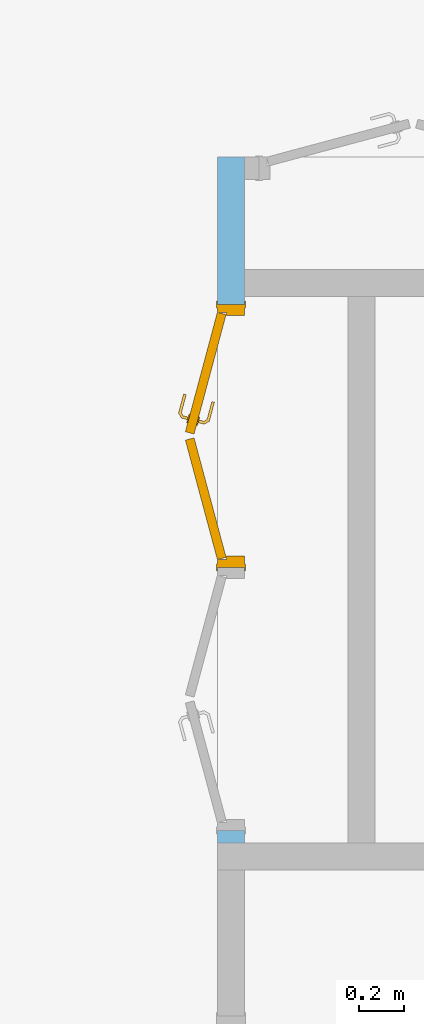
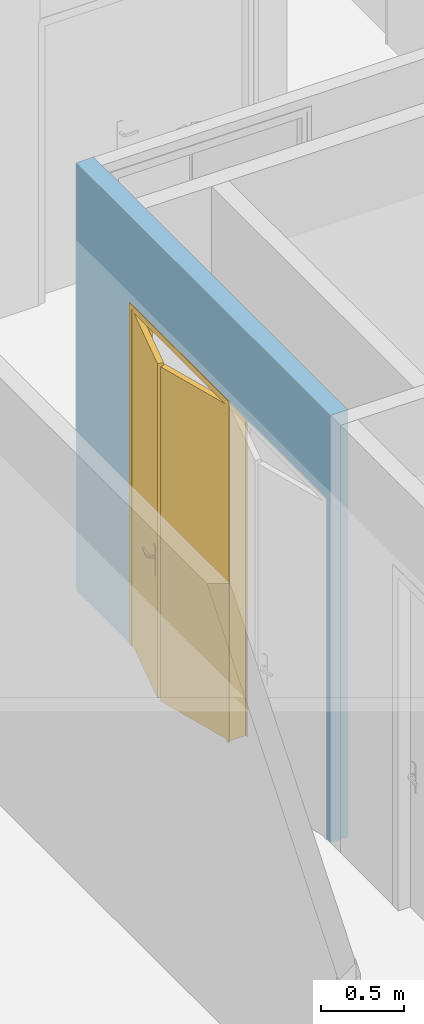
# One storey, part 192 of 240: 1 door, 2 openings, plus 1 element that does not belong to this part.
"""IFC2X3 building model written with IfcOpenShell, lengths in centimetres."""

from ifc_helpers import new_model, entity, si_unit, converted_unit, derived_unit, direction, frame, frame_2d, origin, place, context, subcontext, project, spatial, rectangle, extrude, faceted_brep, source, transform, mapped, material, material_list, layer, layer_set, layer_usage, type_object, type_shapes, element, fill, save


model = new_model("IFC2X3")

# Units and contexts
model_context = context("Model", 3, precision=0.001, world=origin(), true_north=direction((6.12303176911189e-17, 1.0)))
body_context = subcontext(model_context, "Body", "Model", "MODEL_VIEW")
ifc_project = project(units=[si_unit("LENGTHUNIT", "METRE", prefix="CENTI"), si_unit("AREAUNIT", "SQUARE_METRE"), si_unit("VOLUMEUNIT", "CUBIC_METRE"), converted_unit("PLANEANGLEUNIT", "DEGREE", entity("IfcRatioMeasure", 0.0174532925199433), si_unit("PLANEANGLEUNIT", "RADIAN"), dimensions=[0, 0, 0, 0, 0, 0, 0]), si_unit("MASSUNIT", "GRAM", prefix="KILO"), derived_unit("MASSDENSITYUNIT", [(si_unit("MASSUNIT", "GRAM", prefix="KILO"), 1), (si_unit("LENGTHUNIT", "METRE"), -3)]), si_unit("TIMEUNIT", "SECOND"), si_unit("FREQUENCYUNIT", "HERTZ"), si_unit("THERMODYNAMICTEMPERATUREUNIT", "DEGREE_CELSIUS"), derived_unit("THERMALTRANSMITTANCEUNIT", [(si_unit("MASSUNIT", "GRAM", prefix="KILO"), 1), (si_unit("THERMODYNAMICTEMPERATUREUNIT", "KELVIN"), -1), (si_unit("TIMEUNIT", "SECOND"), -3)]), derived_unit("VOLUMETRICFLOWRATEUNIT", [(si_unit("LENGTHUNIT", "METRE"), 3), (si_unit("TIMEUNIT", "SECOND"), -1)]), si_unit("ELECTRICCURRENTUNIT", "AMPERE"), si_unit("ELECTRICVOLTAGEUNIT", "VOLT"), si_unit("POWERUNIT", "WATT"), si_unit("FORCEUNIT", "NEWTON", prefix="KILO"), si_unit("ILLUMINANCEUNIT", "LUX"), si_unit("LUMINOUSFLUXUNIT", "LUMEN"), si_unit("LUMINOUSINTENSITYUNIT", "CANDELA"), derived_unit("USERDEFINED", [(si_unit("MASSUNIT", "GRAM", prefix="KILO"), -1), (si_unit("LENGTHUNIT", "METRE"), -2), (si_unit("TIMEUNIT", "SECOND"), 3), (si_unit("LUMINOUSFLUXUNIT", "LUMEN"), 1)]), derived_unit("LINEARVELOCITYUNIT", [(si_unit("LENGTHUNIT", "METRE"), 1), (si_unit("TIMEUNIT", "SECOND"), -1)]), si_unit("PRESSUREUNIT", "PASCAL"), derived_unit("USERDEFINED", [(si_unit("LENGTHUNIT", "METRE"), -2), (si_unit("MASSUNIT", "GRAM", prefix="KILO"), 1), (si_unit("TIMEUNIT", "SECOND"), -2)])], contexts=[model_context])

# Site, building, storey
site_placement = place(None, frame((-2781.94577612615, 7442.24238424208, 0.0)))
site = spatial("IfcSite", under=ifc_project, at=site_placement, Name="Default", CompositionType="ELEMENT")
building_placement = place(site_placement, origin())
building = spatial("IfcBuilding", under=site, at=building_placement, CompositionType="ELEMENT")
storey_placement = place(building_placement, origin())
storey = spatial("IfcBuildingStorey", under=building, at=storey_placement, Name="N00 - COO", CompositionType="ELEMENT", Elevation=0.0)

# Wall, openings, door
ifc_material_1 = material(Name="01 - Enduit/Plâtre")
ifc_layer_1 = layer(ifc_material_1, 1.0)
ifc_material_2 = material(Name="Maçonnerie - Béton")
ifc_layer_2 = layer(ifc_material_2, 10.0)
ifc_layer_3 = layer(ifc_material_1, 1.0)
ifc_layer_set = layer_set([ifc_layer_1, ifc_layer_2, ifc_layer_3], Name="Mur de base:06 - cloisons - agglos10 + faïence 12cm")
ifc_layer_usage = layer_usage(ifc_layer_set, "AXIS2", "NEGATIVE", 6.0)
wall_type = type_object("IfcWallType", Name="Mur de base:06 - cloisons - agglos10 + faïence 12cm", PredefinedType="STANDARD", material=ifc_layer_set)
wall_placement = place(building_placement, frame((-10470.6130476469, -2673.07903364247, 0.0), z_axis=(0.0, 0.0, 1.0), x_axis=(0.0, -1.0, 0.0)))
wall = element("IfcWallStandardCase", 1, at=wall_placement, inside=storey, type_object=wall_type, material=ifc_layer_usage, Name="Mur de base:06 - cloisons - agglos10 + faïence 12cm", ObjectType="Mur de base:06 - cloisons - agglos10 + faïence 12cm", context=body_context, shape_type="SweptSolid", body=[
    extrude(rectangle(XDim=305.000000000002, YDim=12.0000000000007, at=frame_2d((152.500000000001, 0.0), x_axis=(-1.0, 0.0))), origin(), (0.0, 0.0, 1.0), 313.0),
])
opening_1_placement = place(wall_placement, frame((182.500000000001, 6.0, 0.0)))
opening_1 = element("IfcOpeningElement", 2, at=opening_1_placement, cuts=wall, Name="Int. Double:PP Placard (1.10m x 2.50m):1", ObjectType="Opening", context=body_context, shape_type="SweptSolid", body=[
    extrude(rectangle(XDim=248.500000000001, YDim=117.0, at=frame_2d((124.250000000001, 58.5000000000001), x_axis=(1.0, 0.0))), frame((0.0, 0.0, 0.0), z_axis=(0.0, -1.0, 0.0), x_axis=(0.0, 0.0, 1.0)), (0.0, 0.0, 1.0), 12.0),
])
opening_2_placement = place(wall_placement, frame((299.500000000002, 6.0, 0.0)))
element("IfcOpeningElement", 3, at=opening_2_placement, cuts=wall, Name="Int. Double:PP Placard (1.10m x 2.50m):1", ObjectType="Opening", context=body_context, shape_type="SweptSolid", body=[
    extrude(rectangle(XDim=248.500000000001, YDim=117.0, at=frame_2d((124.250000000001, 58.5000000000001), x_axis=(1.0, 0.0))), frame((0.0, 0.0, 0.0), z_axis=(0.0, -1.0, 0.0), x_axis=(0.0, 0.0, 1.0)), (0.0, 0.0, 1.0), 12.0),
])
ifc_material_3 = material(Name="Bois - Panneau de porte")
ifc_material_4 = material(Name="Finition Peinture - Blanc satiné")
ifc_material_5 = material(Name="Bois - Cadre de porte")
ifc_material_list_1 = material_list([ifc_material_3, ifc_material_4, ifc_material_5])
ifc_material_list_2 = material_list([ifc_material_3, ifc_material_4, ifc_material_5])
door_style = type_object("IfcDoorStyle", Name="PP Placard (1.10m x 2.50m)", ConstructionType="NOTDEFINED", OperationType="DOUBLE_DOOR_SINGLE_SWING", ParameterTakesPrecedence=False, Sizeable=False, material=ifc_material_list_2)
shared_shape = source(origin(), body_context, "Body", "Brep", [
    faceted_brep([(66.3388033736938, -10.3713441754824, 245.0), (119.464723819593, 3.86370330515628, 245.0), (119.464723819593, 3.86370330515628, 0.0), (66.3388033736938, -10.3713441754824, 0.0), (67.3740795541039, -14.2350474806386, 245.0), (67.3740795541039, -14.2350474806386, 0.0), (120.500000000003, 0.0, 0.0), (120.500000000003, 0.0, 245.0)], [[[0, 1, 2, 3]], [[4, 5, 6, 7]], [[1, 0, 4, 7]], [[2, 1, 7, 6]], [[3, 2, 6, 5]], [[0, 3, 5, 4]]]),
    faceted_brep([(59.632807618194, -13.6827342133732, 87.0), (59.632807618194, -13.6827342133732, 108.0), (58.7009559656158, -13.4330453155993, 108.399601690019), (57.7009559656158, -13.1650961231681, 108.535898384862), (56.7009559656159, -12.897146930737, 108.399601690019), (55.7691043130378, -12.6474580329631, 108.0), (55.7691043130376, -12.6474580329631, 87.0), (56.7009559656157, -12.897146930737, 86.6003983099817), (57.7009559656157, -13.1650961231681, 86.464101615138), (58.7009559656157, -13.4330453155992, 86.6003983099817), (59.7622171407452, -13.1997713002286, 108.0), (59.7622171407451, -13.1997713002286, 87.0), (58.830365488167, -12.9500824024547, 86.6003983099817), (57.830365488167, -12.6821332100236, 86.464101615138), (56.830365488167, -12.4141840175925, 86.6003983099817), (55.8985138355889, -12.1644951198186, 87.0), (55.898513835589, -12.1644951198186, 108.0), (56.8303654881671, -12.4141840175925, 108.399601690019), (57.8303654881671, -12.6821332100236, 108.535898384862), (58.8303654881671, -12.9500824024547, 108.399601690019)], [[[0, 1, 2, 3, 4, 5, 6, 7, 8, 9]], [[10, 11, 12, 13, 14, 15, 16, 17, 18, 19]], [[9, 12, 11, 0]], [[8, 13, 12, 9]], [[7, 14, 13, 8]], [[7, 6, 15, 14]], [[15, 6, 5, 16]], [[4, 17, 16, 5]], [[3, 18, 17, 4]], [[2, 19, 18, 3]], [[2, 1, 10, 19]], [[11, 10, 1, 0]]]),
    faceted_brep([(60.7974933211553, -9.33606799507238, 87.0), (60.7974933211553, -9.33606799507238, 108.0), (59.8656416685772, -9.08637909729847, 108.399601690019), (58.8656416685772, -8.81842990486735, 108.535898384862), (57.8656416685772, -8.55048071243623, 108.399601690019), (56.9337900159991, -8.30079181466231, 108.0), (56.933790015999, -8.30079181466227, 87.0), (57.8656416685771, -8.55048071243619, 86.6003983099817), (58.8656416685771, -8.81842990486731, 86.464101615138), (59.865641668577, -9.08637909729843, 86.6003983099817), (58.9950511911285, -8.33546699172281, 108.535898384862), (59.9950511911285, -8.60341618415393, 108.399601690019), (60.9269028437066, -8.85310508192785, 108.0), (60.9269028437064, -8.85310508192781, 87.0), (59.9950511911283, -8.6034161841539, 86.6003983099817), (58.9950511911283, -8.33546699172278, 86.464101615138), (57.9950511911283, -8.06751779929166, 86.6003983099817), (57.0631995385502, -7.81782890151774, 87.0), (57.0631995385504, -7.81782890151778, 108.0), (57.9950511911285, -8.0675177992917, 108.399601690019)], [[[0, 1, 2, 3, 4, 5, 6, 7, 8, 9]], [[10, 11, 12, 13, 14, 15, 16, 17, 18, 19]], [[4, 19, 18, 5]], [[3, 10, 19, 4]], [[2, 11, 10, 3]], [[2, 1, 12, 11]], [[13, 12, 1, 0]], [[9, 14, 13, 0]], [[8, 15, 14, 9]], [[7, 16, 15, 8]], [[7, 6, 17, 16]], [[17, 6, 5, 18]]]),
    faceted_brep([(57.5053271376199, -13.1126775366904, 100.778044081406), (57.8965847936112, -13.2175147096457, 100.778044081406), (58.2805114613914, -13.3203875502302, 100.699999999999), (58.2805114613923, -13.3203875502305, 99.2999999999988), (57.896584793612, -13.217514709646, 99.221955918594), (57.5053271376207, -13.1126775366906, 99.2219559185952), (57.1214004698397, -13.0098046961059, 99.3000000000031), (57.1214004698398, -13.0098046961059, 100.7), (57.2235368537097, -15.7293638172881, 100.778044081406), (57.56485219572, -15.9912642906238, 100.7), (56.8757041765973, -15.4624624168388, 100.778044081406), (55.2007309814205, -16.4295086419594, 100.778044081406), (55.2579580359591, -16.8641912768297, 100.778044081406), (56.5343888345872, -15.2005619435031, 100.7), (56.534388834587, -15.200561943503, 99.3000000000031), (56.875704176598, -15.4624624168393, 99.2219559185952), (57.2235368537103, -15.7293638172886, 99.221955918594), (55.2579580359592, -16.8641912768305, 99.221955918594), (55.2007309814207, -16.4295086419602, 99.2219559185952), (57.5648521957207, -15.9912642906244, 99.2999999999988), (55.3141128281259, -17.2907292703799, 100.7), (55.1445761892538, -16.0029706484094, 100.7), (55.1445761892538, -16.0029706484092, 99.3000000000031), (55.314112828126, -17.2907292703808, 99.2999999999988), (46.8486006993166, -15.0224021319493, 100.7), (46.951473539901, -14.6384754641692, 100.778044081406), (47.0563107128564, -14.2472178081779, 100.778044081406), (47.1591835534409, -13.8632911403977, 100.699999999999), (47.1591835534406, -13.8632911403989, 99.3000000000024), (47.0563107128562, -14.2472178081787, 99.2219559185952), (46.9514735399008, -14.63847546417, 99.221955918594), (46.8486006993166, -15.0224021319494, 99.2999999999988), (51.0761022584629, -15.5339920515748, 100.78786867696), (51.4571239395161, -16.257252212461, 100.7), (51.1518798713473, -14.9331308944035, 100.7), (51.1518798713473, -14.9331308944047, 99.3000000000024), (51.0761022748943, -15.5339920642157, 99.2121313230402), (51.457124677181, -16.2572524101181, 99.2999999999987)], [[[0, 1, 2, 3, 4, 5, 6, 7]], [[2, 1, 8, 9]], [[1, 0, 10, 11, 12, 8]], [[0, 7, 13, 10]], [[14, 13, 7, 6]], [[5, 15, 14, 6]], [[5, 4, 16, 17, 18, 15]], [[3, 19, 16, 4]], [[9, 19, 3, 2]], [[9, 8, 12, 20]], [[10, 13, 21, 11]], [[22, 21, 13, 14]], [[14, 15, 18, 22]], [[16, 19, 23, 17]], [[20, 23, 19, 9]], [[24, 25, 26, 27, 28, 29, 30, 31]], [[32, 25, 33]], [[33, 25, 24]], [[33, 20, 12]], [[11, 34, 32]], [[34, 11, 21]], [[27, 26, 34]], [[32, 26, 25]], [[32, 34, 26]], [[32, 33, 12]], [[11, 32, 12]], [[21, 22, 35, 28, 27, 34]], [[36, 29, 35]], [[30, 36, 37]], [[18, 35, 22]], [[29, 28, 35]], [[30, 37, 31]], [[37, 17, 23]], [[36, 17, 37]], [[36, 18, 17]], [[36, 35, 18]], [[29, 36, 30]], [[23, 20, 33, 24, 31, 37]]]),
    faceted_brep([(58.799422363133, -8.28304840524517, 99.2219559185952), (59.1906800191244, -8.38788557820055, 99.221955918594), (59.5746066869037, -8.49075841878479, 99.2999999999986), (59.5746066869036, -8.49075841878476, 100.7), (59.1906800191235, -8.38788557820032, 100.778044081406), (58.7994223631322, -8.28304840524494, 100.778044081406), (58.415495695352, -8.18017556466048, 100.7), (58.4154956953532, -8.18017556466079, 99.3000000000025), (58.9974556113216, -6.00827159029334, 100.7), (58.9974556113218, -6.00827159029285, 99.3000000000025), (59.4239936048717, -5.95211679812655, 100.778044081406), (59.858676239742, -5.89488974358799, 100.778044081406), (58.7141254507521, -3.9124696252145, 100.778044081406), (58.4472240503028, -4.26030230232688, 100.778044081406), (60.285214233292, -5.83873495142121, 100.7), (60.2852142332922, -5.8387349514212, 99.2999999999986), (59.858676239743, -5.89488974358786, 99.221955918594), (59.4239936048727, -5.95211679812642, 99.2219559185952), (58.4472240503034, -4.26030230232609, 99.2219559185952), (58.7141254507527, -3.91246962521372, 99.221955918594), (58.1853235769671, -4.60161764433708, 100.7), (58.1853235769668, -4.60161764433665, 99.3000000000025), (58.9760259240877, -3.57115428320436, 100.7), (58.9760259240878, -3.57115428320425, 99.2999999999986), (50.3134642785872, -2.08086794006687, 100.778044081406), (50.4183014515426, -1.68961028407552, 100.778044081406), (50.521174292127, -1.30568361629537, 100.7), (50.5211742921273, -1.30568361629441, 99.2999999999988), (50.4183014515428, -1.68961028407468, 99.221955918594), (50.3134642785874, -2.08086794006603, 99.2219559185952), (50.2105914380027, -2.46479460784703, 99.3000000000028), (50.2105914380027, -2.46479460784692, 100.7), (54.197957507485, -3.53320612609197, 100.7), (54.1979586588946, -3.53320643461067, 99.3000000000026), (54.4327627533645, -2.97495629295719, 100.78786867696), (55.1190370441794, -2.53767722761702, 100.7), (55.119037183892, -2.53767726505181, 99.2999999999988), (54.4327627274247, -2.97495629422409, 99.2121313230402)], [[[0, 1, 2, 3, 4, 5, 6, 7]], [[8, 9, 7, 6]], [[5, 10, 8, 6]], [[5, 4, 11, 12, 13, 10]], [[3, 14, 11, 4]], [[14, 3, 2, 15]], [[2, 1, 16, 15]], [[1, 0, 17, 18, 19, 16]], [[0, 7, 9, 17]], [[20, 21, 9, 8]], [[8, 10, 13, 20]], [[14, 22, 12, 11]], [[23, 22, 14, 15]], [[15, 16, 19, 23]], [[17, 9, 21, 18]], [[24, 25, 26, 27, 28, 29, 30, 31]], [[21, 20, 32, 31, 30, 33]], [[34, 24, 32]], [[25, 34, 35]], [[13, 32, 20]], [[24, 31, 32]], [[25, 35, 26]], [[35, 12, 22]], [[34, 12, 35]], [[34, 13, 12]], [[34, 32, 13]], [[24, 34, 25]], [[22, 23, 36, 27, 26, 35]], [[37, 28, 36]], [[36, 28, 27]], [[36, 23, 19]], [[18, 33, 37]], [[33, 18, 21]], [[30, 29, 33]], [[37, 29, 28]], [[37, 33, 29]], [[37, 36, 19]], [[18, 37, 19]]]),
    faceted_brep([(64.6611966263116, -10.3713441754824, 245.0), (64.6611966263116, -10.3713441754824, 0.0), (11.5352761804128, 3.86370330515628, 0.0), (11.5352761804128, 3.86370330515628, 245.0), (63.6259204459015, -14.2350474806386, 245.0), (10.5000000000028, 0.0, 245.0), (10.5000000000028, 0.0, 0.0), (63.6259204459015, -14.2350474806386, 0.0)], [[[0, 1, 2, 3]], [[4, 5, 6, 7]], [[3, 5, 4, 0]], [[2, 6, 5, 3]], [[1, 7, 6, 2]], [[0, 4, 7, 1]]]),
    faceted_brep([(124.0, 0.0, 0.0), (120.500000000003, 0.0, 0.0), (120.500000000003, 4.0, 0.0), (119.0, 4.0, 0.0), (119.0, 12.0, 0.0), (124.0, 12.0, 0.0), (124.0, 12.0, 248.500000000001), (124.0, 0.0, 248.500000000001), (119.0, 12.0, 243.5), (12.0, 12.0, 243.5), (12.0, 12.0, 0.0), (7.0, 12.0, 0.0), (7.0, 12.0, 248.500000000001), (119.0, 4.0, 243.5), (120.500000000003, 4.0, 245.0), (10.5000000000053, 4.0, 245.0), (10.5000000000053, 4.0, 0.0), (12.0, 4.0, 0.0), (12.0, 4.0, 243.5), (120.500000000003, 0.0, 245.0), (7.0, 0.0, 248.500000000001), (7.0, 0.0, 0.0), (10.5000000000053, 0.0, 0.0), (10.5000000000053, 0.0, 245.0)], [[[0, 1, 2, 3, 4, 5]], [[5, 6, 7, 0]], [[4, 8, 9, 10, 11, 12, 6, 5]], [[3, 13, 8, 4]], [[2, 14, 15, 16, 17, 18, 13, 3]], [[1, 19, 14, 2]], [[0, 7, 20, 21, 22, 23, 19, 1]], [[12, 11, 21, 20]], [[21, 11, 10, 17, 16, 22]], [[18, 17, 10, 9]], [[23, 22, 16, 15]], [[6, 12, 20, 7]], [[13, 18, 9, 8]], [[19, 23, 15, 14]]]),
    faceted_brep([(122.500000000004, 12.0, 0.0), (122.500000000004, 12.5000000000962, 0.0), (125.500000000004, 12.5000000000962, 0.0), (125.500000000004, 12.0, 0.0), (125.500000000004, 12.0, 250.0), (5.50000000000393, 12.0, 250.0), (5.50000000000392, 12.0, 0.0), (8.50000000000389, 12.0, 0.0), (8.50000000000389, 12.0, 247.0), (122.500000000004, 12.0, 247.0), (125.500000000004, 12.5000000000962, 250.0), (122.500000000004, 12.5000000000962, 247.0), (8.50000000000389, 12.5000000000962, 247.0), (8.50000000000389, 12.5000000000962, 0.0), (5.50000000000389, 12.5000000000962, 0.0), (5.50000000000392, 12.5000000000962, 250.0)], [[[0, 1, 2, 3]], [[3, 4, 5, 6, 7, 8, 9, 0]], [[2, 10, 4, 3]], [[1, 11, 12, 13, 14, 15, 10, 2]], [[0, 9, 11, 1]], [[8, 7, 13, 12]], [[7, 6, 14, 13]], [[15, 14, 6, 5]], [[10, 15, 5, 4]], [[9, 8, 12, 11]]]),
    faceted_brep([(125.500000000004, -0.499999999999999, 0.0), (125.500000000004, -0.499999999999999, 250.0), (5.50000000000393, -0.499999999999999, 250.0), (5.50000000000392, -0.499999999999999, 0.0), (8.50000000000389, -0.499999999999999, 0.0), (8.50000000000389, -0.499999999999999, 247.0), (122.500000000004, -0.499999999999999, 247.0), (122.500000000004, -0.499999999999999, 0.0), (125.500000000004, 0.0, 0.0), (125.500000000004, 0.0, 250.0), (122.500000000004, 0.0, 0.0), (122.500000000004, 0.0, 247.0), (8.50000000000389, 0.0, 247.0), (8.50000000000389, 0.0, 0.0), (5.50000000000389, 0.0, 0.0), (5.50000000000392, 0.0, 250.0)], [[[0, 1, 2, 3, 4, 5, 6, 7]], [[8, 9, 1, 0]], [[10, 11, 12, 13, 14, 15, 9, 8]], [[7, 6, 11, 10]], [[5, 4, 13, 12]], [[15, 14, 3, 2]], [[9, 15, 2, 1]], [[6, 5, 12, 11]], [[4, 3, 14, 13]], [[7, 10, 8, 0]]]),
])
type_shapes(door_style, [shared_shape])
door_placement = place(opening_1_placement, frame((-124.0, -12.0, 0.0)))
door = element("IfcDoor", 4, at=door_placement, inside=storey, type_object=door_style, material=ifc_material_list_1, Name="Int. Double:PP Placard (1.10m x 2.50m)", ObjectType="Int. Double:PP Placard (1.10m x 2.50m)", OverallHeight=248.500000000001, OverallWidth=117.0, context=body_context, shape_type="MappedRepresentation", body=[
    mapped(shared_shape, transform((0.0, 0.0, 0.0), scale=1.0)),
])
fill(opening_1, door)

save(model, "model.ifc")
